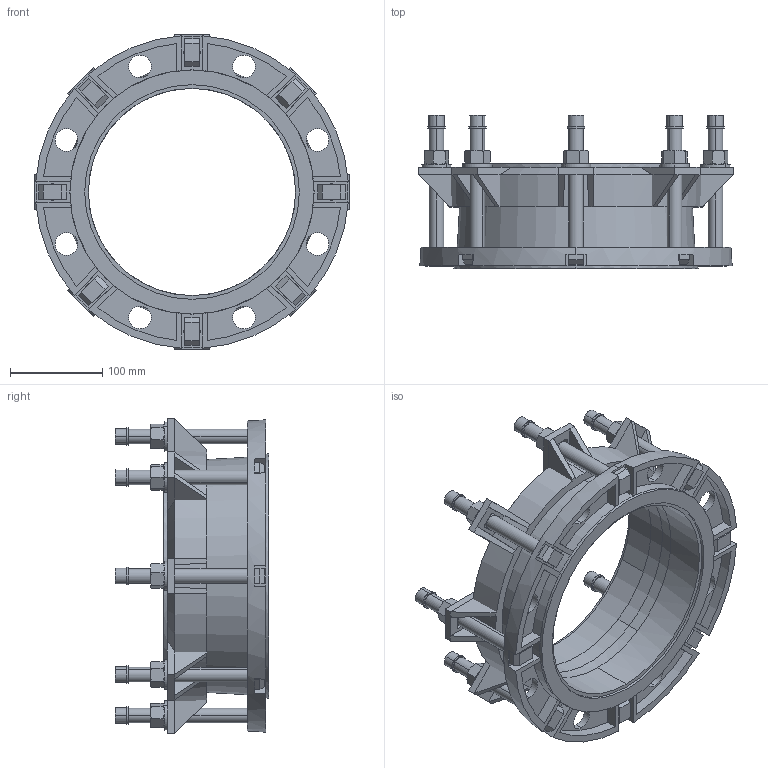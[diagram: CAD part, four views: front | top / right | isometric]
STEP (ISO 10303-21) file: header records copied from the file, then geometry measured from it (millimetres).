
FILE_DESCRIPTION (( 'STEP AP203' ), '1' );
FILE_NAME ('O_623_10_DN200-225mm_X0XXXXX_REV01.step', '2020-04-17T09:01:53', ( '' ), ( '' ), 'SwSTEP 2.0', 'SolidWorks 2019', '' );
FILE_SCHEMA (( 'CONFIG_CONTROL_DESIGN' ));
Length unit declared in the file: millimetre
Products named in the file (1): O_623_10_DN200-225mm_X0XXXXX_REV01
Bounding box: 342 x 166.5 x 342 mm (x, y, z)
Volume: 2456213 mm3; surface area: 442033.8 mm2
Topology: 1 solids, 1 shells, 753 faces, 1882 edges, 1163 vertices
Faces by surface type: plane 401, cylinder 221, cone 129, bspline 2
Entity records: 23428 total; most frequent: CARTESIAN_POINT 5479, ORIENTED_EDGE 3764, DIRECTION 3681, EDGE_CURVE 1882, AXIS2_PLACEMENT_3D 1393, VERTEX_POINT 1163, VECTOR 895, LINE 895
